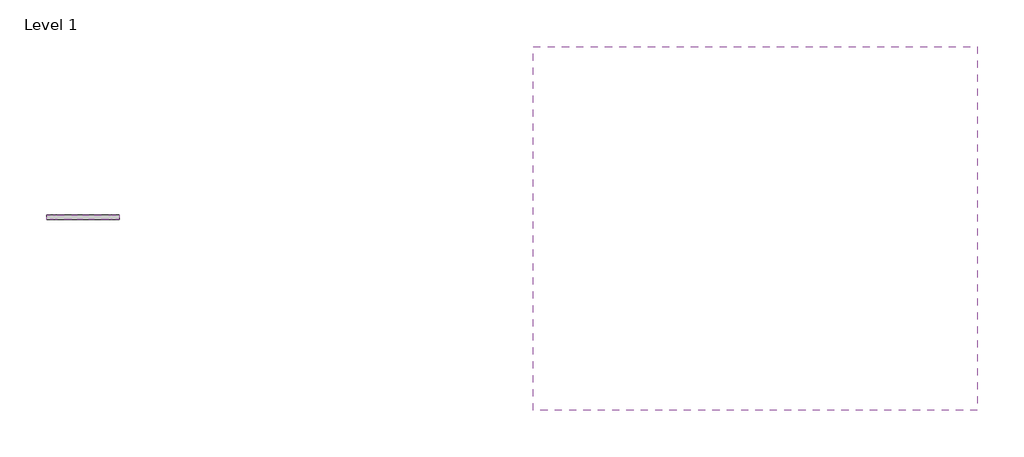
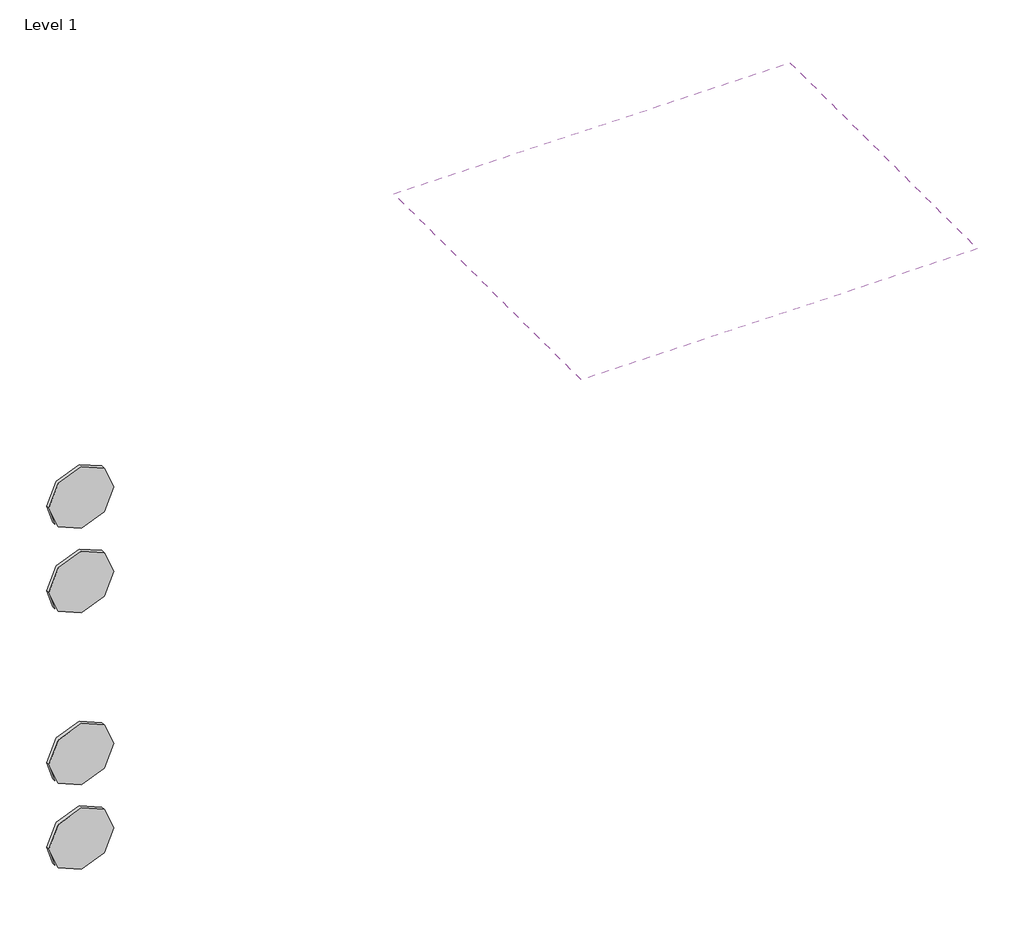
# One storey, incomplete: 4 proxies, 1 covering.
"""IFC4 building model written with IfcOpenShell, lengths in millimetres."""

from ifc_helpers import new_model, si_unit, frame, origin, place, context, project, spatial, polyline, outline, extrude, transform, mapped, element, save
from components import materialmodel_materialmodel_41144b76

model = new_model("IFC4")

# Units and contexts
model_context = context("Model", 3, world=origin())
ifc_project = project(units=[si_unit("LENGTHUNIT", "METRE", prefix="MILLI")], contexts=[model_context])

# Site, building, storey
site = spatial("IfcSite", under=ifc_project)
building = spatial("IfcBuilding", under=site)
storey = spatial("IfcBuildingStorey", under=building, Name="Level 1", Elevation=0.0)

# Proxies
placement = place(None, origin())
materialmodel_materialmodel_shape = materialmodel_materialmodel_41144b76(model_context)
element("IfcBuildingElementProxy", 1, Name="MaterialModel : MaterialModel", ObjectType="MaterialModel : MaterialModel", at=placement, inside=storey, context=model_context, shape_type="MappedRepresentation", body=[
    mapped(materialmodel_materialmodel_shape, transform((-15717.8072231, 6097.5863071, 821.7046249), x_axis=(1.0, 0.0, 0.0), y_axis=(0.0, 1.0, 0.0), z_axis=(0.0, 0.0, 1.0))),
])
element("IfcBuildingElementProxy", 2, Name="MaterialModel : MaterialModel", ObjectType="MaterialModel : MaterialModel", at=placement, inside=storey, context=model_context, shape_type="MappedRepresentation", body=[
    mapped(materialmodel_materialmodel_shape, transform((-15717.8072231, 6097.5863071, 546.7046249), x_axis=(1.0, 0.0, 0.0), y_axis=(0.0, 1.0, 0.0), z_axis=(0.0, 0.0, 1.0))),
])
element("IfcBuildingElementProxy", 3, Name="MaterialModel : MaterialModel", ObjectType="MaterialModel : MaterialModel", at=placement, inside=storey, context=model_context, shape_type="MappedRepresentation", body=[
    mapped(materialmodel_materialmodel_shape, transform((-15717.8072231, 6097.5863071, 1657.218674), x_axis=(1.0, 0.0, 0.0), y_axis=(0.0, 1.0, 0.0), z_axis=(0.0, 0.0, 1.0))),
])
element("IfcBuildingElementProxy", 4, Name="MaterialModel : MaterialModel", ObjectType="MaterialModel : MaterialModel", at=placement, inside=storey, context=model_context, shape_type="MappedRepresentation", body=[
    mapped(materialmodel_materialmodel_shape, transform((-15717.8072231, 6097.5863071, 1382.218674), x_axis=(1.0, 0.0, 0.0), y_axis=(0.0, 1.0, 0.0), z_axis=(0.0, 0.0, 1.0))),
])

# Covering
element("IfcCovering", 5, ObjectType="600 x 1200mm Grid", at=placement, inside=storey, context=model_context, shape_type="SweptSolid", body=[
    extrude(outline(polyline([(-13260.883584, 6561.1087432), (-13260.883584, 5561.1087432), (-14480.883584, 5561.1087432), (-14480.883584, 6561.1087432), (-13260.883584, 6561.1087432)])), frame((0.0, 0.0, 2000.0), z_axis=(0.0, 0.0, 1.0), x_axis=(1.0, 0.0, 0.0)), (0.0, 0.0, 1.0), 52.0),
])

save(model, "model.ifc")
